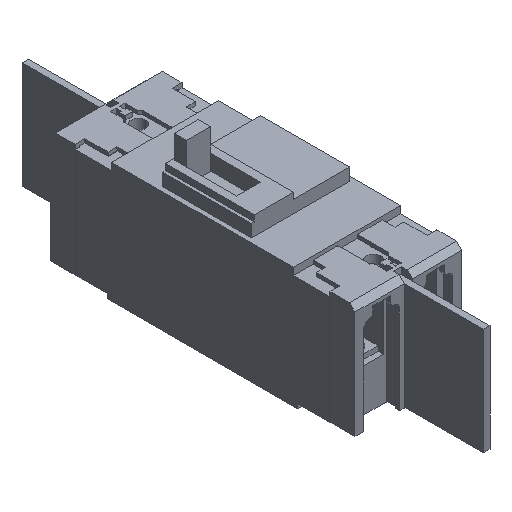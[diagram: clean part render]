
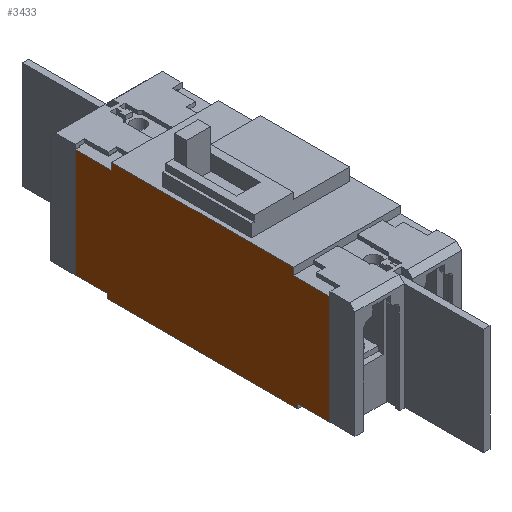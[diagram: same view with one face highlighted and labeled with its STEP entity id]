
A CAD part, isometric view. The second image highlights one B-rep face of the part: STEP entity #3433.
In plain terms, the highlighted planar face has unit normal (-1, 0, 0).
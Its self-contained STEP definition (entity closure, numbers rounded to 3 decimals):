
#1661 = EDGE_CURVE( '', #4681, #2527, #4812, .T. );
#1721 = EDGE_CURVE( '', #4111, #1961, #4880, .T. );
#1907 = VERTEX_POINT( '', #5083 );
#1961 = VERTEX_POINT( '', #5141 );
#2195 = VERTEX_POINT( '', #5405 );
#2415 = VERTEX_POINT( '', #5645 );
#2433 = VERTEX_POINT( '', #5663 );
#2527 = VERTEX_POINT( '', #5763 );
#2545 = EDGE_CURVE( '', #3897, #3031, #5783, .T. );
#2629 = VERTEX_POINT( '', #5877 );
#2691 = EDGE_CURVE( '', #3031, #3303, #5944, .T. );
#2973 = EDGE_CURVE( '', #1907, #2195, #6251, .T. );
#3031 = VERTEX_POINT( '', #6315 );
#3035 = EDGE_CURVE( '', #3303, #2629, #6319, .T. );
#3039 = EDGE_CURVE( '', #1961, #2433, #6323, .T. );
#3117 = EDGE_CURVE( '', #2415, #4681, #6409, .T. );
#3303 = VERTEX_POINT( '', #6616 );
#3433 = ADVANCED_FACE( '', ( #6758 ), #6759, .T. );
#3499 = EDGE_CURVE( '', #2527, #1907, #6834, .T. );
#3897 = VERTEX_POINT( '', #7269 );
#4111 = VERTEX_POINT( '', #7506 );
#4287 = EDGE_CURVE( '', #2629, #2415, #7699, .T. );
#4451 = EDGE_CURVE( '', #2433, #3897, #7880, .T. );
#4661 = EDGE_CURVE( '', #4111, #2195, #8107, .T. );
#4681 = VERTEX_POINT( '', #8131 );
#4812 = LINE( '', #8282, #8283 );
#4880 = LINE( '', #8382, #8383 );
#5083 = CARTESIAN_POINT( '', ( -30., 16.5, 67.5 ) );
#5141 = CARTESIAN_POINT( '', ( -30., 139., 63.5 ) );
#5405 = CARTESIAN_POINT( '', ( -30., 118.5, 67.5 ) );
#5645 = CARTESIAN_POINT( '', ( -30., -4., 2.5 ) );
#5663 = CARTESIAN_POINT( '', ( -30., 139., 2.5 ) );
#5763 = CARTESIAN_POINT( '', ( -30., 16.5, 63.5 ) );
#5783 = LINE( '', #9668, #9669 );
#5877 = CARTESIAN_POINT( '', ( -30., 14., 2.5 ) );
#5944 = LINE( '', #9885, #9886 );
#6251 = LINE( '', #10307, #10308 );
#6315 = CARTESIAN_POINT( '', ( -30., 121., 0. ) );
#6319 = LINE( '', #10405, #10406 );
#6323 = LINE( '', #10411, #10412 );
#6409 = LINE( '', #10528, #10529 );
#6616 = CARTESIAN_POINT( '', ( -30., 14., 0. ) );
#6758 = FACE_OUTER_BOUND( '', #11019, .T. );
#6759 = PLANE( '', #11020 );
#6834 = LINE( '', #11132, #11133 );
#7269 = CARTESIAN_POINT( '', ( -30., 121., 2.5 ) );
#7506 = CARTESIAN_POINT( '', ( -30., 118.5, 63.5 ) );
#7699 = LINE( '', #12311, #12312 );
#7880 = LINE( '', #12572, #12573 );
#8107 = LINE( '', #12897, #12898 );
#8131 = CARTESIAN_POINT( '', ( -30., -4., 63.5 ) );
#8282 = CARTESIAN_POINT( '', ( -30., 145., 63.5 ) );
#8283 = VECTOR( '', #13067, 1. );
#8382 = CARTESIAN_POINT( '', ( -30., 145., 63.5 ) );
#8383 = VECTOR( '', #13152, 1. );
#9668 = CARTESIAN_POINT( '', ( -30., 121., 0. ) );
#9669 = VECTOR( '', #14068, 1. );
#9885 = CARTESIAN_POINT( '', ( -30., 145., 0. ) );
#9886 = VECTOR( '', #14261, 1. );
#10307 = CARTESIAN_POINT( '', ( -30., 118.5, 67.5 ) );
#10308 = VECTOR( '', #14561, 1. );
#10405 = CARTESIAN_POINT( '', ( -30., 14., 0. ) );
#10406 = VECTOR( '', #14635, 1. );
#10411 = CARTESIAN_POINT( '', ( -30., 139., 31.75 ) );
#10412 = VECTOR( '', #14636, 1. );
#10528 = CARTESIAN_POINT( '', ( -30., -4., 31.75 ) );
#10529 = VECTOR( '', #14752, 1. );
#11019 = EDGE_LOOP( '', ( #15166, #15167, #15168, #15169, #15170, #15171, #15172, #15173, #15174, #15175, #15176, #15177 ) );
#11020 = AXIS2_PLACEMENT_3D( '', #15178, #15179, #15180 );
#11132 = CARTESIAN_POINT( '', ( -30., 16.5, 63.5 ) );
#11133 = VECTOR( '', #15272, 1. );
#12311 = CARTESIAN_POINT( '', ( -30., -5., 2.5 ) );
#12312 = VECTOR( '', #16213, 1. );
#12572 = CARTESIAN_POINT( '', ( -30., -5., 2.5 ) );
#12573 = VECTOR( '', #16409, 1. );
#12897 = CARTESIAN_POINT( '', ( -30., 118.5, 63.5 ) );
#12898 = VECTOR( '', #16613, 1. );
#13067 = DIRECTION( '', ( 0., 1., 0. ) );
#13152 = DIRECTION( '', ( 0., 1., 0. ) );
#14068 = DIRECTION( '', ( 0., 0., -1. ) );
#14261 = DIRECTION( '', ( 0., -1., 0. ) );
#14561 = DIRECTION( '', ( 0., 1., 0. ) );
#14635 = DIRECTION( '', ( 0., 0., 1. ) );
#14636 = DIRECTION( '', ( 0., 0., -1. ) );
#14752 = DIRECTION( '', ( 0., 0., 1. ) );
#15166 = ORIENTED_EDGE( '', *, *, #3039, .T. );
#15167 = ORIENTED_EDGE( '', *, *, #4451, .T. );
#15168 = ORIENTED_EDGE( '', *, *, #2545, .T. );
#15169 = ORIENTED_EDGE( '', *, *, #2691, .T. );
#15170 = ORIENTED_EDGE( '', *, *, #3035, .T. );
#15171 = ORIENTED_EDGE( '', *, *, #4287, .T. );
#15172 = ORIENTED_EDGE( '', *, *, #3117, .T. );
#15173 = ORIENTED_EDGE( '', *, *, #1661, .T. );
#15174 = ORIENTED_EDGE( '', *, *, #3499, .T. );
#15175 = ORIENTED_EDGE( '', *, *, #2973, .T. );
#15176 = ORIENTED_EDGE( '', *, *, #4661, .F. );
#15177 = ORIENTED_EDGE( '', *, *, #1721, .T. );
#15178 = CARTESIAN_POINT( '', ( -30., -10., 0. ) );
#15179 = DIRECTION( '', ( -1., 0., 0. ) );
#15180 = DIRECTION( '', ( 0., -1., 0. ) );
#15272 = DIRECTION( '', ( 0., 0., 1. ) );
#16213 = DIRECTION( '', ( 0., -1., 0. ) );
#16409 = DIRECTION( '', ( 0., -1., 0. ) );
#16613 = DIRECTION( '', ( 0., 0., 1. ) );
